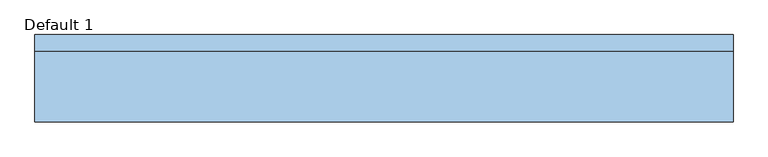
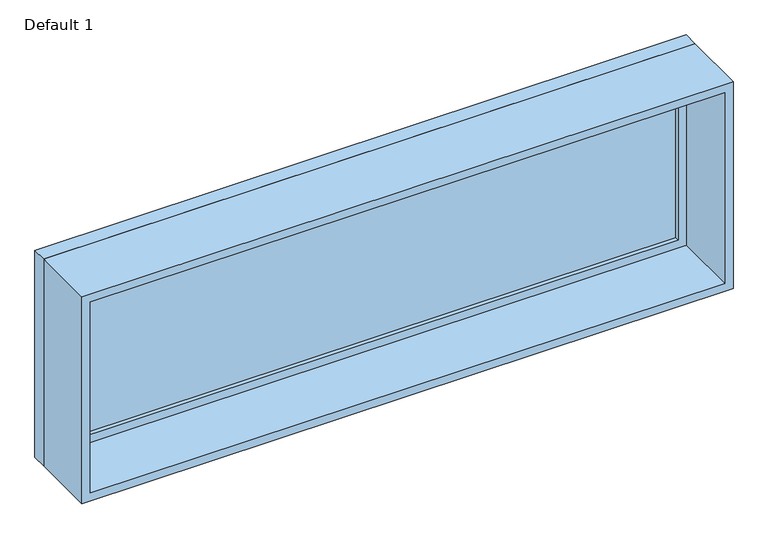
"""IFC4 building model written with IfcOpenShell, lengths in millimetres: window geometry, Planitar-Fixed : Default 1."""

import ifcopenshell
import ifcopenshell.guid

model = None  # the IFC model being written
_history = None  # IfcOwnerHistory: only IFC2X3 demands one
_inside = {}  # id of a spatial element -> (the spatial element, [elements in it])
_under = {}  # id of a project, library or spatial element -> (it, [spatial elements below it])
_declared = {}  # id of a project -> (the project, [libraries it declares])
_typed = {}  # id of a type object -> (the type object, [elements of that type])
_made_of = {}  # id of a material, layer set ... -> (it, [elements and type objects made of it])


def new_model(schema):
    """Start an empty IFC model of exactly this schema.

    Asked for "IFC4X3", IfcOpenShell would pick the latest addendum, in which some entities
    have other attributes; the version numbers below select the first issue.
    IFC2X3 requires an IfcOwnerHistory on every rooted entity: one is made here for all.
    """
    global model, _history
    if schema == "IFC4X3":
        model = ifcopenshell.file(schema_version=(4, 3, 0, 0))
    else:
        model = ifcopenshell.file(schema=schema)
    _inside.clear()
    _under.clear()
    _declared.clear()
    _typed.clear()
    _made_of.clear()
    _history = None
    if model.schema == "IFC2X3":
        org = make("IfcOrganization", Name="unknown")
        user = make(
            "IfcPersonAndOrganization",
            ThePerson=make("IfcPerson", FamilyName="unknown"),
            TheOrganization=org,
        )
        app = make(
            "IfcApplication",
            ApplicationDeveloper=org,
            Version="unknown",
            ApplicationFullName="unknown",
            ApplicationIdentifier="unknown",
        )
        _history = make(
            "IfcOwnerHistory",
            OwningUser=user,
            OwningApplication=app,
            ChangeAction="ADDED",
            CreationDate=0,
        )
    return model


def make(cls, **values):
    """One entity of the class cls with the attributes given. An attribute that is None is left unset."""
    return model.create_entity(
        cls, **{name: value for name, value in values.items() if value is not None}
    )


def rooted(cls, **values):
    """An entity with a GlobalId (a new one), such as an element, a storey or a relation."""
    return make(cls, GlobalId=ifcopenshell.guid.new(), OwnerHistory=_history, **values)


def si_unit(unit_type, name, prefix=None):
    """IfcSIUnit, for example si_unit("LENGTHUNIT", "METRE", prefix="MILLI")."""
    return make("IfcSIUnit", UnitType=unit_type, Prefix=prefix, Name=name)


def assignment(units):
    """IfcUnitAssignment: the units of a project."""
    return None if units is None else make("IfcUnitAssignment", Units=units)


def point(xyz):
    """IfcCartesianPoint."""
    return None if xyz is None else make("IfcCartesianPoint", Coordinates=xyz)


def direction(xyz):
    """IfcDirection."""
    return None if xyz is None else make("IfcDirection", DirectionRatios=xyz)


def frame(location, z_axis=None, x_axis=None):
    """IfcAxis2Placement3D, a coordinate frame: its origin and axes. An axis left out is left unset."""
    return make(
        "IfcAxis2Placement3D",
        Location=point(location),
        Axis=direction(z_axis),
        RefDirection=direction(x_axis),
    )


def origin():
    """The frame at (0, 0, 0) with its axes left unset."""
    return frame((0.0, 0.0, 0.0))


def place(relative_to, where):
    """IfcLocalPlacement: puts the frame where relative to a parent placement (None: the world)."""
    return make(
        "IfcLocalPlacement", PlacementRelTo=relative_to, RelativePlacement=where
    )


def context(
    kind, dimensions, precision=None, world=None, true_north=None, identifier=None
):
    """IfcGeometricRepresentationContext, for example the 3D "Model" context."""
    return make(
        "IfcGeometricRepresentationContext",
        ContextIdentifier=identifier,
        ContextType=kind,
        CoordinateSpaceDimension=dimensions,
        Precision=precision,
        WorldCoordinateSystem=world,
        TrueNorth=true_north,
    )


def project(units=None, contexts=None):
    """IfcProject with its units and contexts."""
    return rooted(
        "IfcProject",
        Name="project",
        RepresentationContexts=contexts,
        UnitsInContext=assignment(units),
    )


def spatial(cls, under=None, at=None, **own):
    """A site, building, storey or space (cls), placed at a placement, below another one or the project."""
    s = rooted(cls, ObjectPlacement=at, **own)
    if under is not None:
        _under.setdefault(under.id(), (under, []))[1].append(s)
    return s


def polyline(points):
    """IfcPolyline through the points."""
    return make("IfcPolyline", Points=[point(p) for p in points])


def outline(outer, holes=None, kind="AREA"):
    """IfcArbitraryClosedProfileDef: a profile drawn as a closed curve; with holes, ...WithVoids."""
    if holes is None:
        return make("IfcArbitraryClosedProfileDef", ProfileType=kind, OuterCurve=outer)
    return make(
        "IfcArbitraryProfileDefWithVoids",
        ProfileType=kind,
        OuterCurve=outer,
        InnerCurves=holes,
    )


def extrude(swept, where, along, depth):
    """IfcExtrudedAreaSolid: the profile swept, set in the frame where, extruded along a direction by depth."""
    return make(
        "IfcExtrudedAreaSolid",
        SweptArea=swept,
        Position=where,
        ExtrudedDirection=direction(along),
        Depth=depth,
    )


def shape(context_of_items, identifier, shape_type, items):
    """IfcShapeRepresentation: the items that make up one representation, for example the "Body"."""
    return make(
        "IfcShapeRepresentation",
        ContextOfItems=context_of_items,
        RepresentationIdentifier=identifier,
        RepresentationType=shape_type,
        Items=items,
    )


def source(mapping_origin, context_of_items, identifier, shape_type, items):
    """IfcRepresentationMap: a shape defined once, which mapped items show again and again."""
    return make(
        "IfcRepresentationMap",
        MappingOrigin=mapping_origin,
        MappedRepresentation=shape(context_of_items, identifier, shape_type, items),
    )


def transform(
    local_origin,
    x_axis=None,
    y_axis=None,
    z_axis=None,
    scale=None,
    scale2=None,
    scale3=None,
    uniform=True,
):
    """IfcCartesianTransformationOperator3D, or its non-uniform kind. x_axis, y_axis, z_axis: its Axis1, 2, 3."""
    if uniform:
        return make(
            "IfcCartesianTransformationOperator3D",
            Axis1=direction(x_axis),
            Axis2=direction(y_axis),
            LocalOrigin=point(local_origin),
            Scale=scale,
            Axis3=direction(z_axis),
        )
    return make(
        "IfcCartesianTransformationOperator3DnonUniform",
        Axis1=direction(x_axis),
        Axis2=direction(y_axis),
        LocalOrigin=point(local_origin),
        Scale=scale,
        Axis3=direction(z_axis),
        Scale2=scale2,
        Scale3=scale3,
    )


def mapped(mapping_source, mapping_target):
    """IfcMappedItem: shows the shape of a source again, moved by a transform."""
    return make(
        "IfcMappedItem", MappingSource=mapping_source, MappingTarget=mapping_target
    )


def made_of(thing, what):
    """Note that an element or type object is made of a material, layer set ...; save() writes the relation."""
    if what is not None:
        _made_of.setdefault(what.id(), (what, []))[1].append(thing)
    return thing


def element(
    cls,
    number,
    at=None,
    inside=None,
    cuts=None,
    type_object=None,
    material=None,
    context=None,
    identifier="Body",
    shape_type=None,
    held_by="IfcProductDefinitionShape",
    body=None,
    shapes=None,
    **own,
):
    """One element of the class cls, such as IfcWall. Its Tag is "e" and its number.

    at: its placement. inside: the storey or other place that contains it. cuts: it is an
    opening in that element (IfcRelVoidsElement). A single representation is given by context,
    identifier, shape_type and body (its items); several are given by shapes. held_by: the class
    of the entity that holds the representations. save() writes the other relations.
    """
    e = rooted(cls, Tag="e%d" % number, ObjectPlacement=at, **own)
    if body is not None:
        shapes = [shape(context, identifier, shape_type, body)]
    if shapes is not None:
        e.Representation = make(held_by, Representations=shapes)
    if inside is not None:
        _inside.setdefault(inside.id(), (inside, []))[1].append(e)
    if cuts is not None:
        rooted(
            "IfcRelVoidsElement", RelatingBuildingElement=cuts, RelatedOpeningElement=e
        )
    if type_object is not None:
        _typed.setdefault(type_object.id(), (type_object, []))[1].append(e)
    return made_of(e, material)


def aggregate(whole, parts):
    """IfcRelAggregates: a whole, such as a stair, and the parts it consists of."""
    return rooted("IfcRelAggregates", RelatingObject=whole, RelatedObjects=parts)


def save(model, path):
    """Write the relations noted so far, then the file.

    IfcRelAggregates (storeys below a building ...), IfcRelContainedInSpatialStructure (elements
    in a storey), IfcRelDefinesByType, IfcRelAssociatesMaterial and IfcRelDeclares: one each for
    every whole, place, type object, material and project.
    """
    for whole, parts in _under.values():
        aggregate(whole, parts)
    for where, things in _inside.values():
        rooted(
            "IfcRelContainedInSpatialStructure",
            RelatedElements=things,
            RelatingStructure=where,
        )
    for kind, things in _typed.values():
        rooted("IfcRelDefinesByType", RelatedObjects=things, RelatingType=kind)
    for what, things in _made_of.values():
        rooted("IfcRelAssociatesMaterial", RelatedObjects=things, RelatingMaterial=what)
    for by, libraries in _declared.values():
        rooted("IfcRelDeclares", RelatingContext=by, RelatedDefinitions=libraries)
    model.write(path)


def default_1_c9a6c9ce(model_context):
    return source(origin(), model_context, "Body", "SweptSolid", [
        extrude(outline(polyline([(1715.4945518, -1200.1939), (933.4, -1200.1939), (933.4, 1200.1939), (1715.4945518, 1200.1939), (1715.4945518, -1200.1939)]), holes=[polyline([(1671.4945518, -1156.1939), (1671.4945518, 1156.1939), (977.4, 1156.1939), (977.4, -1156.1939), (1671.4945518, -1156.1939)])]), frame((0.0, 108.7, 0.0), z_axis=(0.0, 1.0, 0.0), x_axis=(0.0, 0.0, 1.0)), (0.0, 0.0, 1.0), 44.0),
        extrude(outline(polyline([(1734.4945518, -1219.1939), (914.4, -1219.1939), (914.4, 1219.1939), (1734.4945518, 1219.1939), (1734.4945518, -1219.1939)]), holes=[polyline([(1715.4945518, -1200.1939), (1715.4945518, 1200.1939), (933.4, 1200.1939), (933.4, -1200.1939), (1715.4945518, -1200.1939)])]), frame((0.0, 108.7, 0.0), z_axis=(0.0, 1.0, 0.0), x_axis=(0.0, 0.0, 1.0)), (0.0, 0.0, 1.0), 56.7),
        extrude(outline(polyline([(1734.4945518, -1219.1939), (914.4, -1219.1939), (914.4, 1219.1939), (1734.4945518, 1219.1939), (1734.4945518, -1219.1939)]), holes=[polyline([(1702.4945518, -1187.1939), (1702.4945518, 1187.1939), (946.4, 1187.1939), (946.4, -1187.1939), (1702.4945518, -1187.1939)])]), frame((0.0, -139.4, 0.0), z_axis=(0.0, 1.0, 0.0), x_axis=(0.0, 0.0, 1.0)), (0.0, 0.0, 1.0), 248.1),
        extrude(outline(polyline([(-1156.1939, 136.7), (1156.1939, 136.7), (1156.1939, 124.7), (-1156.1939, 124.7), (-1156.1939, 136.7)])), frame((0.0, 0.0, 977.4), z_axis=(0.0, 0.0, 1.0), x_axis=(1.0, 0.0, 0.0)), (0.0, 0.0, 1.0), 694.0945518),
    ])


if __name__ == "__main__":
    model = new_model("IFC4")
    model_context = context("Model", 3, world=origin())
    ifc_project = project(units=[si_unit("LENGTHUNIT", "METRE", prefix="MILLI")], contexts=[model_context])
    site = spatial("IfcSite", under=ifc_project)
    building = spatial("IfcBuilding", under=site)
    placement = place(None, origin())
    default_1_shape = default_1_c9a6c9ce(model_context)
    element("IfcWindow", 1, ObjectType="Planitar-Fixed : Default 1", at=placement, inside=building, context=model_context, shape_type="MappedRepresentation", body=[
        mapped(default_1_shape, transform((0.0, 0.0, 0.0), x_axis=(1.0, 0.0, 0.0), y_axis=(0.0, 1.0, 0.0), z_axis=(0.0, 0.0, 1.0))),
    ])
    save(model, "model.ifc")
